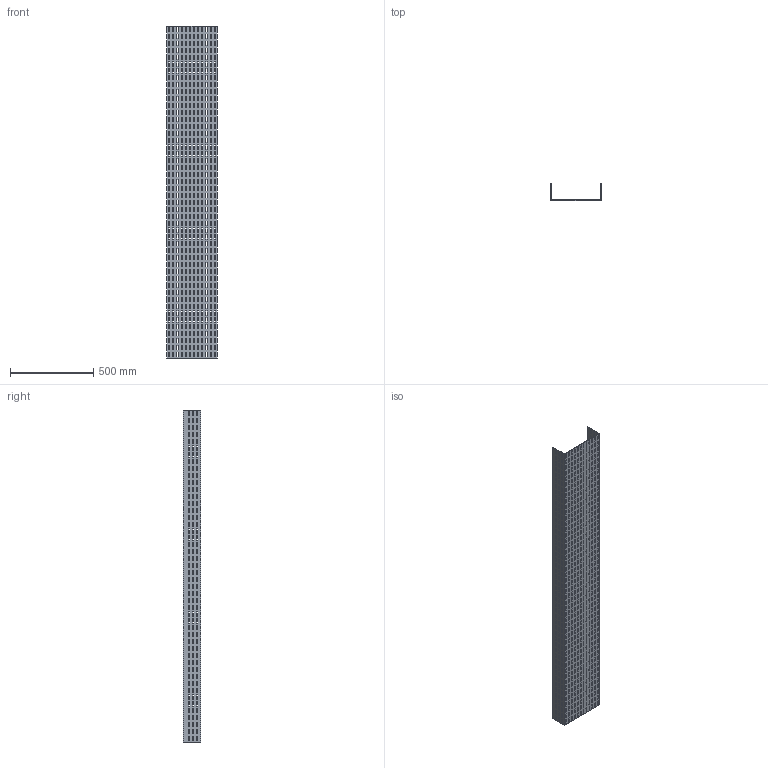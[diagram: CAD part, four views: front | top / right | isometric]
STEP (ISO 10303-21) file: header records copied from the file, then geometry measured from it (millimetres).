
FILE_DESCRIPTION (( 'STEP AP214' ), '1' );
FILE_NAME ('01F2D300.step', '2025-02-21T13:09:20', ( '' ), ( '' ), 'SwSTEP 2.0', 'SolidWorks 2023', '' );
FILE_SCHEMA (( 'AUTOMOTIVE_DESIGN' ));
Length unit declared in the file: millimetre
Products named in the file (1): 01F2D300
Bounding box: 304 x 104 x 2000 mm (x, y, z)
Volume: 3005800 mm3; surface area: 1928671 mm2
Topology: 1 solids, 1 shells, 3466 faces, 10392 edges, 6928 vertices
Faces by surface type: plane 3466
Entity records: 117815 total; most frequent: CARTESIAN_POINT 20787, ORIENTED_EDGE 20784, DIRECTION 17326, VECTOR 10392, LINE 10392, EDGE_CURVE 10392, VERTEX_POINT 6928, EDGE_LOOP 5194
